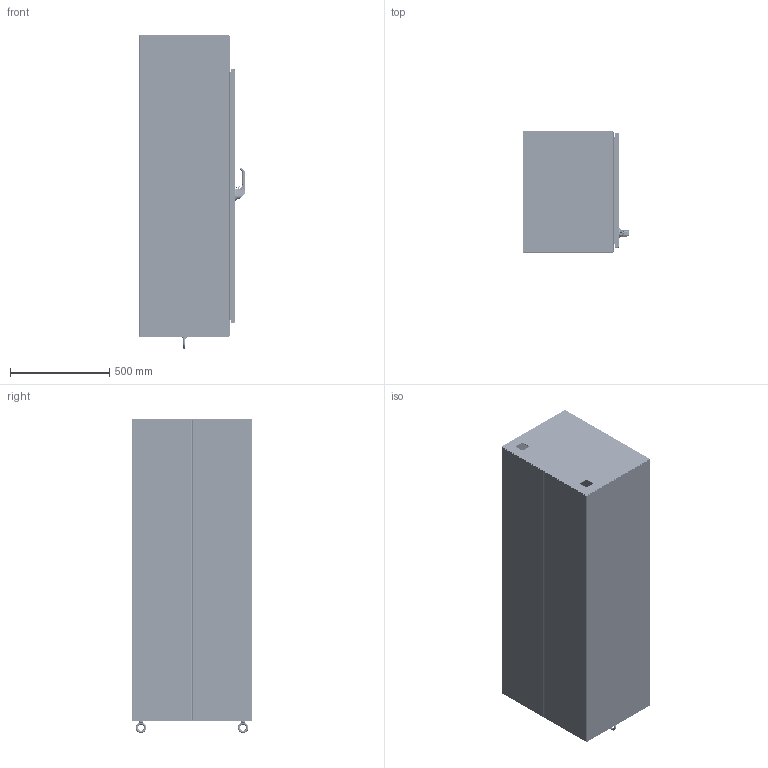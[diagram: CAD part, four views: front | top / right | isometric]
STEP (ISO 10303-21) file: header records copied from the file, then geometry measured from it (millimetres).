
FILE_DESCRIPTION((''),'2;1');
FILE_NAME('MODEL-244_ASM','2024-06-03T15:24:05',('joshi'),('SAGINAW CONTROL & ENGINEERING'),'CREO PARAMETRIC BY PTC INC, 2021284','CREO PARAMETRIC BY PTC INC, 2021284','');
FILE_SCHEMA(('AUTOMOTIVE_DESIGN { 1 0 10303 214 1 1 1 1 }'));
Length unit declared in the file: inch
Products named in the file (59): MODEL-244-L-SD; MODEL-244-TP; MODEL-244-R-SD; MODEL-244-BTM; MODEL-244-DR; 100837; 111267; 100882; 100955_SCREW_MTG; 100955_PADLOCK_CATCH; 100955_SCREW_LARGE; 100955_INSERT_SHAFT; 100955_INSERT_PKH; 100955_GASKET; 100955_O-RING; 100955_BASE; 100955_SPRING; 100955_HANDLE; 100955_CAM_SHAFT; 100955_HANDLE_ASM; 100955_CAM_ADAPTER; 100955_EARTH_NUT; 100955_FLANGE_NUT; 100955_CAM_NUT; 100955_KEY_INSERT; 100955_SPRING_CAM; 100955_TORSION_SPRING; 100955_SCREW_INSERT; 100955_ASM; 102237; 100030; 102237_ASM; MODEL-244-ROD-UPR; 128146; 128145; 128144; 102482; MODEL-244-ROD-UPR_ASM; 128143; 112504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
Assembly tree (102 placements, depth 5):
  MODEL-244_ASM
    MODEL-244-L-SD
    MODEL-244-TP
    MODEL-244-R-SD
    MODEL-244-BTM
    MODEL-244-DOOR-ASSY_ASM
      MODEL-244-DR
      100837  x5
      111267
      100882  x10
      100955_ASM
        100955_SCREW_MTG
        100955_PADLOCK_CATCH
        100955_SCREW_LARGE  x2
        100955_INSERT_SHAFT
        100955_INSERT_PKH
        100955_GASKET
        100955_O-RING
        100955_BASE
        100955_SPRING
        100955_HANDLE_ASM
          100955_HANDLE
          100955_CAM_SHAFT
        100955_CAM_ADAPTER
        100955_EARTH_NUT
        100955_FLANGE_NUT
        100955_CAM_NUT
        100955_KEY_INSERT
        100955_SPRING_CAM
        100955_TORSION_SPRING
        100955_SCREW_INSERT
      102237_ASM
        102237
        100030  x2
      MODEL-244-ROD-UPR_ASM
        MODEL-244-ROD-UPR
        128146
        128145
        128144
        102482  x2
      128143  x2
      112504  x2
      MODEL-244-ROD-LWR_ASM
        MODEL-244-ROD-LWR
        128146
        128145
        128144
        102482  x2
      MODEL-244-PR-GSKT
      128257_ASM  x3
        128257
      126393  x3
      102483  x3
      101369_ASM  x3
        101369
        101369-STUD
      101221  x3
    100837  x3
    MODEL-244-B42  x6
    130513  x2
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Bounding box: 535.45 x 609.6 x 1585.16 mm (x, y, z)
Volume: 12382357.6 mm3; surface area: 9236393.2 mm2
Topology: 106 solids, 106 shells, 11284 faces, 28895 edges, 17876 vertices
Faces by surface type: plane 3932, cylinder 3066, bspline 2578, torus 791, cone 625, sphere 262, extrusion 30
Entity records: 367912 total; most frequent: CARTESIAN_POINT 149678, ORIENTED_EDGE 33424, DIRECTION 30119, PRESENTATION_STYLE_ASSIGNMENT 17649, STYLED_ITEM 17644, CURVE_STYLE 16712, EDGE_CURVE 16712, AXIS2_PLACEMENT_3D 11294
